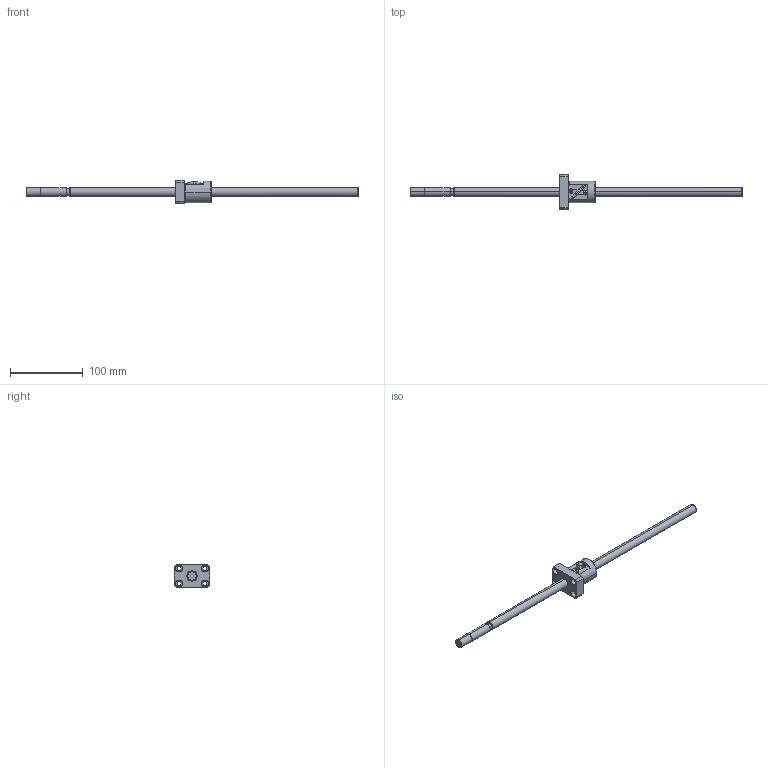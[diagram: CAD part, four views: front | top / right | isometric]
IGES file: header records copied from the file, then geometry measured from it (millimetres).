
Global section: file name: No Iges File Name specified; native system: AutoDesk Inventor R10; preprocessor: AutoDesk Inventor Iges Exporter R10; author: No Author specified; organization: No Organization specified; date: 20101224.140154; units: millimetre
Bounding box: 455 x 48 x 32 mm (x, y, z)
Surface area: 28832.6 mm2 (no closed solid volume)
Topology: 0 solids, 0 shells, 132 faces, 968 edges, 968 vertices
Faces by surface type: bspline 132
